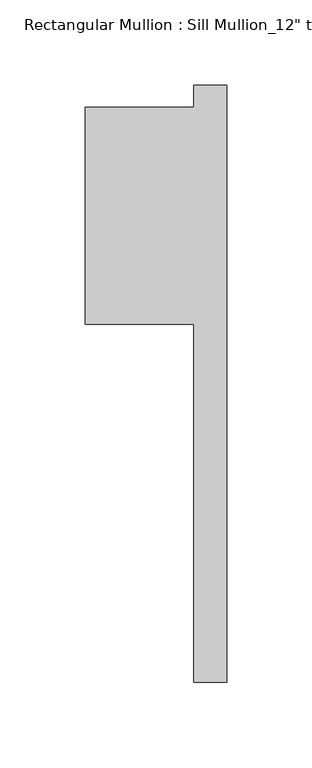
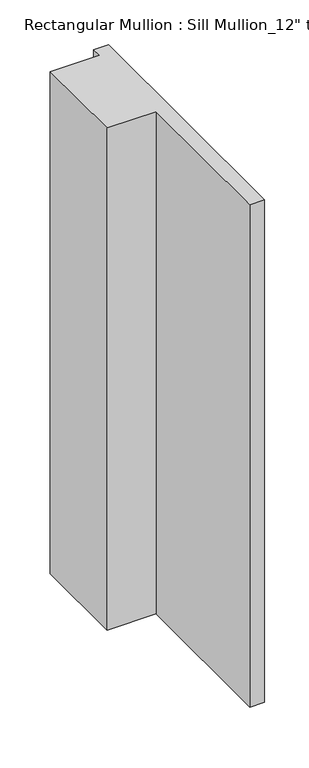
"""IFC4 building model written with IfcOpenShell, lengths in millimetres: member geometry."""

from ifc_helpers import new_model, si_unit, frame, origin, place, context, project, spatial, polyline, outline, extrude, source, transform, mapped, element, save


def member_331617a5(model_context):
    return source(origin(), model_context, "Body", "SweptSolid", [
        extrude(outline(polyline([(-82.55, -50.8), (-82.55, 76.2), (-19.05, 76.2), (-19.05, 88.9), (0.0, 88.9), (0.0, -260.35), (-19.05, -260.35), (-19.05, -50.8), (-82.55, -50.8)])), frame((0.0, 0.0, -685.8), z_axis=(0.0, 0.0, 1.0), x_axis=(1.0, 0.0, 0.0)), (0.0, 0.0, 1.0), 685.8),
    ])


if __name__ == "__main__":
    model = new_model("IFC4")
    model_context = context("Model", 3, world=origin())
    ifc_project = project(units=[si_unit("LENGTHUNIT", "METRE", prefix="MILLI")], contexts=[model_context])
    site = spatial("IfcSite", under=ifc_project)
    building = spatial("IfcBuilding", under=site)
    placement = place(None, origin())
    member_shape = member_331617a5(model_context)
    element("IfcMember", 1, ObjectType="Rectangular Mullion : Sill Mullion_12\" thick wall", at=placement, inside=building, context=model_context, shape_type="MappedRepresentation", body=[
        mapped(member_shape, transform((0.0, 0.0, 0.0), x_axis=(1.0, 0.0, 0.0), y_axis=(0.0, 1.0, 0.0), z_axis=(0.0, 0.0, 1.0))),
    ])
    save(model, "model.ifc")
